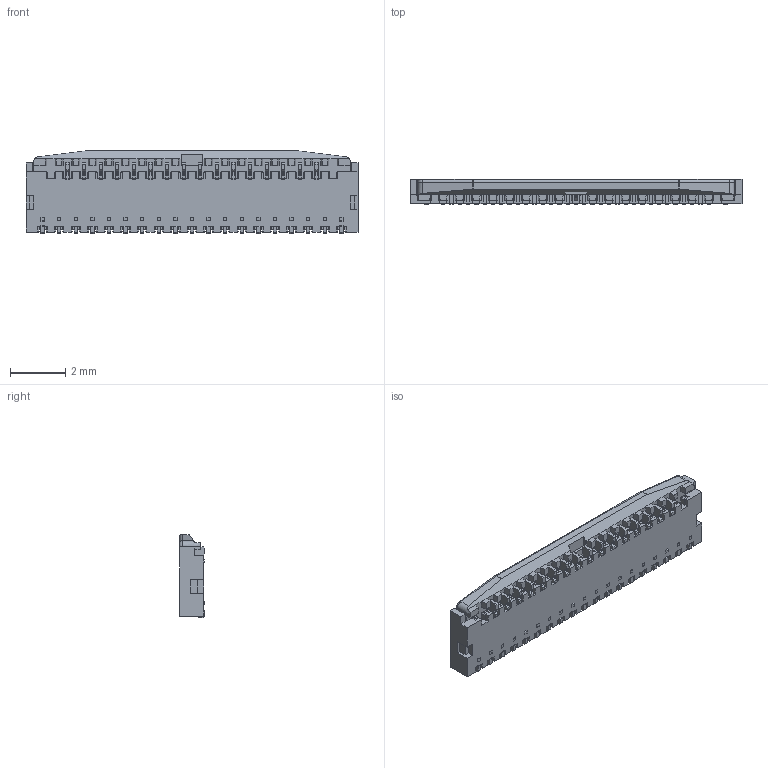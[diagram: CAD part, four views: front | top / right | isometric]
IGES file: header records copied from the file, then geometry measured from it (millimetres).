
Start section: SolidWorks IGES file using analytic representation for surfaces
Global section: file name: C:\Users\83197\OneDrive - I-PEX\デスクトップ\Exported\20599-033E-01C LK TYPE ACT CLOSE IGES R1 ALL.IGS; native system: SolidWorks 2023; preprocessor: SolidWorks 2023; author: 83197; date: 251117.133904; units: millimetre
Bounding box: 12 x 0.9 x 3 mm (x, y, z)
Surface area: 121.8 mm2 (no closed solid volume)
Topology: 0 solids, 0 shells, 1573 faces, 9430 edges, 9426 vertices
Faces by surface type: bspline 1363, revolution 210
